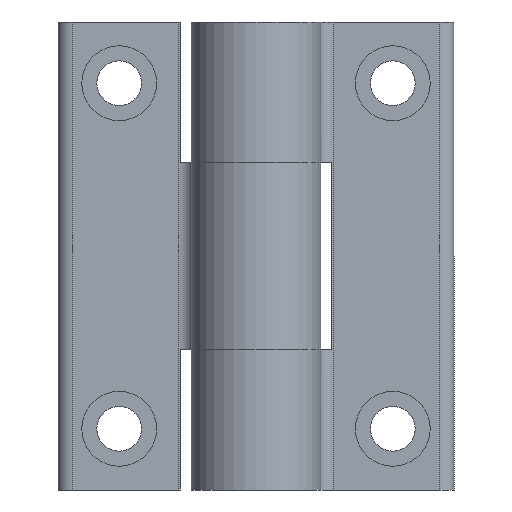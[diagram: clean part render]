
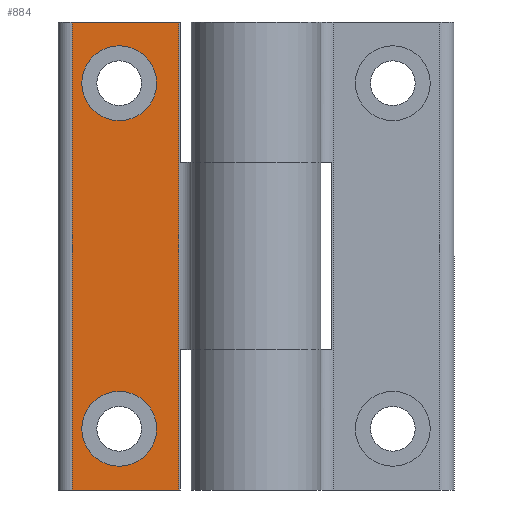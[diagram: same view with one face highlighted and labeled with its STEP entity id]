
A CAD part, front view. The second image highlights one B-rep face of the part: STEP entity #884.
In plain terms, the highlighted planar face has unit normal (0, -1, 0).
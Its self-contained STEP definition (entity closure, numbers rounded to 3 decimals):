
#243=CARTESIAN_POINT('',(-1.462,4.5,32.5));
#244=VERTEX_POINT('',#243);
#252=CARTESIAN_POINT('',(-1.462,4.5,-32.5));
#253=VERTEX_POINT('',#252);
#254=CARTESIAN_POINT('',(-1.462,4.5,-32.5));
#255=DIRECTION('',(0.0,0.0,1.0));
#256=VECTOR('',#255,65.0);
#257=LINE('',#254,#256);
#258=EDGE_CURVE('',#253,#244,#257,.T.);
#376=CARTESIAN_POINT('',(-4.55,4.5,24.0));
#377=VERTEX_POINT('',#376);
#386=CARTESIAN_POINT('',(-14.95,4.5,24.0));
#387=VERTEX_POINT('',#386);
#388=CARTESIAN_POINT('',(-9.75,4.5,24.0));
#389=DIRECTION('',(0.0,1.0,0.0));
#390=DIRECTION('',(1.0,0.0,0.0));
#391=AXIS2_PLACEMENT_3D('',#388,#389,#390);
#392=CIRCLE('',#391,5.2);
#393=EDGE_CURVE('',#387,#377,#392,.T.);
#460=CARTESIAN_POINT('',(-4.55,4.5,-24.0));
#461=VERTEX_POINT('',#460);
#470=CARTESIAN_POINT('',(-14.95,4.5,-24.0));
#471=VERTEX_POINT('',#470);
#472=CARTESIAN_POINT('',(-9.75,4.5,-24.0));
#473=DIRECTION('',(0.0,1.0,0.0));
#474=DIRECTION('',(1.0,0.0,0.0));
#475=AXIS2_PLACEMENT_3D('',#472,#473,#474);
#476=CIRCLE('',#475,5.2);
#477=EDGE_CURVE('',#471,#461,#476,.T.);
#511=CARTESIAN_POINT('',(-9.75,4.5,-24.0));
#512=DIRECTION('',(0.0,1.0,0.0));
#513=DIRECTION('',(1.0,0.0,0.0));
#514=AXIS2_PLACEMENT_3D('',#511,#512,#513);
#515=CIRCLE('',#514,5.2);
#516=EDGE_CURVE('',#461,#471,#515,.T.);
#573=CARTESIAN_POINT('',(-9.75,4.5,24.0));
#574=DIRECTION('',(0.0,1.0,0.0));
#575=DIRECTION('',(1.0,0.0,0.0));
#576=AXIS2_PLACEMENT_3D('',#573,#574,#575);
#577=CIRCLE('',#576,5.2);
#578=EDGE_CURVE('',#377,#387,#577,.T.);
#807=CARTESIAN_POINT('',(-16.25,4.5,-32.5));
#808=VERTEX_POINT('',#807);
#809=CARTESIAN_POINT('',(-16.25,4.5,-32.5));
#810=DIRECTION('',(1.0,0.0,0.0));
#811=VECTOR('',#810,14.788);
#812=LINE('',#809,#811);
#813=EDGE_CURVE('',#808,#253,#812,.T.);
#853=CARTESIAN_POINT('',(-1.462,4.5,-32.5));
#854=DIRECTION('',(0.0,-1.0,0.0));
#855=DIRECTION('',(1.0,0.0,0.0));
#856=AXIS2_PLACEMENT_3D('',#853,#854,#855);
#857=PLANE('',#856);
#858=CARTESIAN_POINT('',(-16.25,4.5,32.5));
#859=VERTEX_POINT('',#858);
#860=CARTESIAN_POINT('',(-1.462,4.5,32.5));
#861=DIRECTION('',(-1.0,0.0,0.0));
#862=VECTOR('',#861,14.788);
#863=LINE('',#860,#862);
#864=EDGE_CURVE('',#244,#859,#863,.T.);
#865=ORIENTED_EDGE('',*,*,#864,.T.);
#866=CARTESIAN_POINT('',(-16.25,4.5,-32.5));
#867=DIRECTION('',(0.0,0.0,1.0));
#868=VECTOR('',#867,65.0);
#869=LINE('',#866,#868);
#870=EDGE_CURVE('',#808,#859,#869,.T.);
#871=ORIENTED_EDGE('',*,*,#870,.F.);
#872=ORIENTED_EDGE('',*,*,#813,.T.);
#873=ORIENTED_EDGE('',*,*,#258,.T.);
#874=EDGE_LOOP('',(#865,#871,#872,#873));
#875=FACE_OUTER_BOUND('',#874,.T.);
#876=ORIENTED_EDGE('',*,*,#516,.T.);
#877=ORIENTED_EDGE('',*,*,#477,.T.);
#878=EDGE_LOOP('',(#876,#877));
#879=FACE_BOUND('',#878,.T.);
#880=ORIENTED_EDGE('',*,*,#578,.T.);
#881=ORIENTED_EDGE('',*,*,#393,.T.);
#882=EDGE_LOOP('',(#880,#881));
#883=FACE_BOUND('',#882,.T.);
#884=ADVANCED_FACE('',(#875,#879,#883),#857,.T.);
